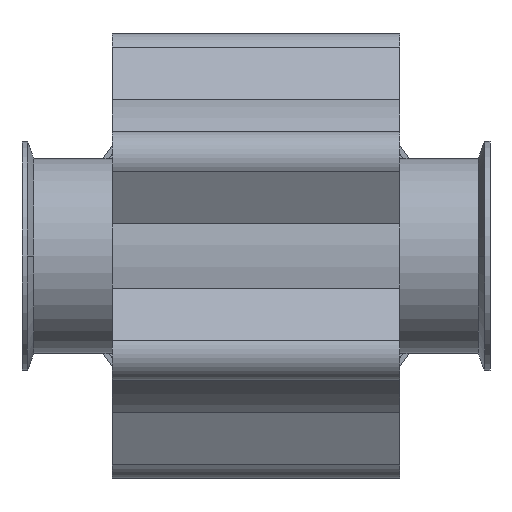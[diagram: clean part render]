
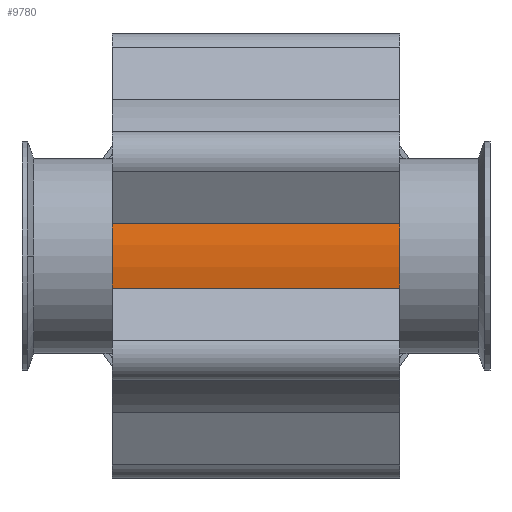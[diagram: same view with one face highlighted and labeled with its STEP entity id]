
A CAD part, front view. The second image highlights one B-rep face of the part: STEP entity #9780.
In plain terms, the highlighted cylindrical face has radius 86 mm (diameter 172 mm), a partial arc.
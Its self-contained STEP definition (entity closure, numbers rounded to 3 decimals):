
#100=CARTESIAN_POINT('',(84.375,14.,
16.641));
#110=VERTEX_POINT('',#100);
#160=CARTESIAN_POINT('',(84.375,14.,16.641));
#170=DIRECTION('',(0.,-1.,0.));
#180=VECTOR('',#170,1.);
#190=LINE('',#160,#180);
#200=CARTESIAN_POINT('',(84.375,-135.5,16.641));
#210=VERTEX_POINT('',#200);
#220=EDGE_CURVE('',#110,#210,#190,.T.);
#7320=CARTESIAN_POINT('',(0.,-135.5,0.));
#7330=DIRECTION('',(0.,-1.,0.));
#7340=DIRECTION('',(0.,0.,-1.));
#7350=AXIS2_PLACEMENT_3D('',#7320,#7330,#7340);
#7360=CIRCLE('',#7350,86.);
#7370=CARTESIAN_POINT('',(84.375,-135.5,-16.641));
#7380=VERTEX_POINT('',#7370);
#7390=EDGE_CURVE('',#7380,#210,#7360,.T.);
#9540=CARTESIAN_POINT('',(0.,14.,0.));
#9550=DIRECTION('',(0.,-1.,0.));
#9560=DIRECTION('',(0.,0.,-1.));
#9570=AXIS2_PLACEMENT_3D('',#9540,#9550,#9560);
#9580=CYLINDRICAL_SURFACE('',#9570,86.);
#9590=ORIENTED_EDGE('',*,*,#7390,.F.);
#9600=ORIENTED_EDGE('',*,*,#220,.T.);
#9610=CARTESIAN_POINT('',(0.,14.,0.));
#9620=DIRECTION('',(0.,-1.,0.));
#9630=DIRECTION('',(0.,0.,-1.));
#9640=AXIS2_PLACEMENT_3D('',#9610,#9620,#9630);
#9650=CIRCLE('',#9640,86.);
#9660=CARTESIAN_POINT('',(84.375,14.,
-16.641));
#9670=VERTEX_POINT('',#9660);
#9680=EDGE_CURVE('',#9670,#110,#9650,.T.);
#9690=ORIENTED_EDGE('',*,*,#9680,.T.);
#9700=CARTESIAN_POINT('',(84.375,-135.5,-16.641));
#9710=DIRECTION('',(0.,1.,0.));
#9720=VECTOR('',#9710,1.);
#9730=LINE('',#9700,#9720);
#9740=EDGE_CURVE('',#7380,#9670,#9730,.T.);
#9750=ORIENTED_EDGE('',*,*,#9740,.T.);
#9760=EDGE_LOOP('',(#9750,#9690,#9600,#9590));
#9770=FACE_OUTER_BOUND('',#9760,.T.);
#9780=ADVANCED_FACE('',(#9770),#9580,.T.);
